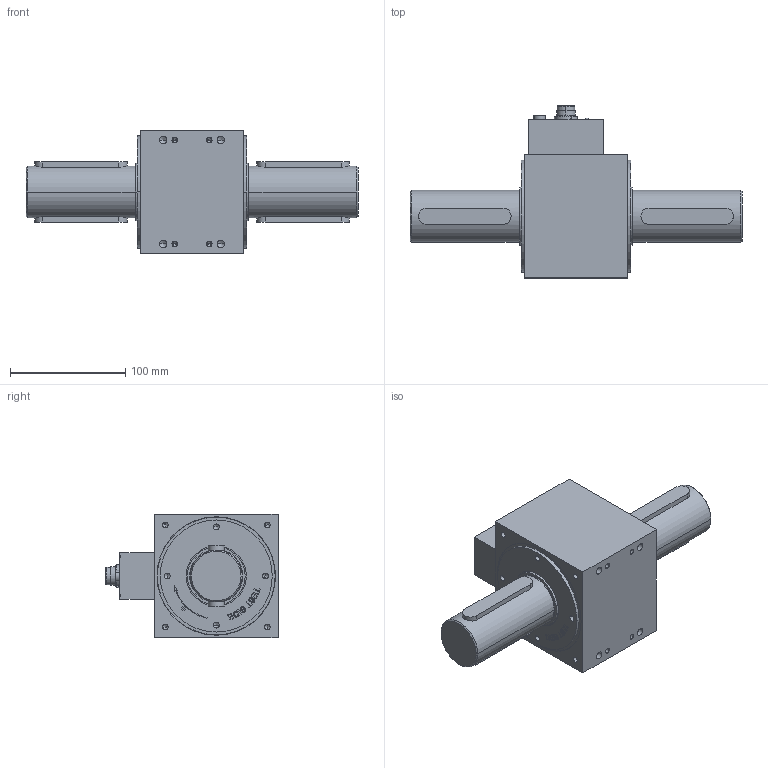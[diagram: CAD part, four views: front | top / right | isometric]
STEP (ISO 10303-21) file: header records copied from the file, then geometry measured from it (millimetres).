
FILE_DESCRIPTION(('STEP AP214'),'1');
FILE_NAME('burster_8661-6001-vxx02_8sqbh2n27g6q4p1ik0f0fuzb3.stp','2017-04-20T20:22:06',('TraceParts'),('TraceParts S.A.'),'Spatial InterOp 3D',' ',' ');
FILE_SCHEMA(('automotive_design'));
Length unit declared in the file: millimetre
Products named in the file (1): burster_8661-6001-vxx02_8sqbh2n27g6q4p1ik0f0fuzb3
Bounding box: 287.5 x 149 x 107 mm (x, y, z)
Volume: 1460264.5 mm3; surface area: 118101.4 mm2
Topology: 1 solids, 33 shells, 899 faces, 2250 edges, 1416 vertices
Faces by surface type: plane 389, cylinder 204, cone 164, bspline 72, torus 40, sphere 30
Entity records: 34697 total; most frequent: CARTESIAN_POINT 6573, ORIENTED_EDGE 4320, DIRECTION 4263, EDGE_CURVE 2160, AXIS2_PLACEMENT_3D 1518, VERTEX_POINT 1416, LINE 1227, VECTOR 1227
